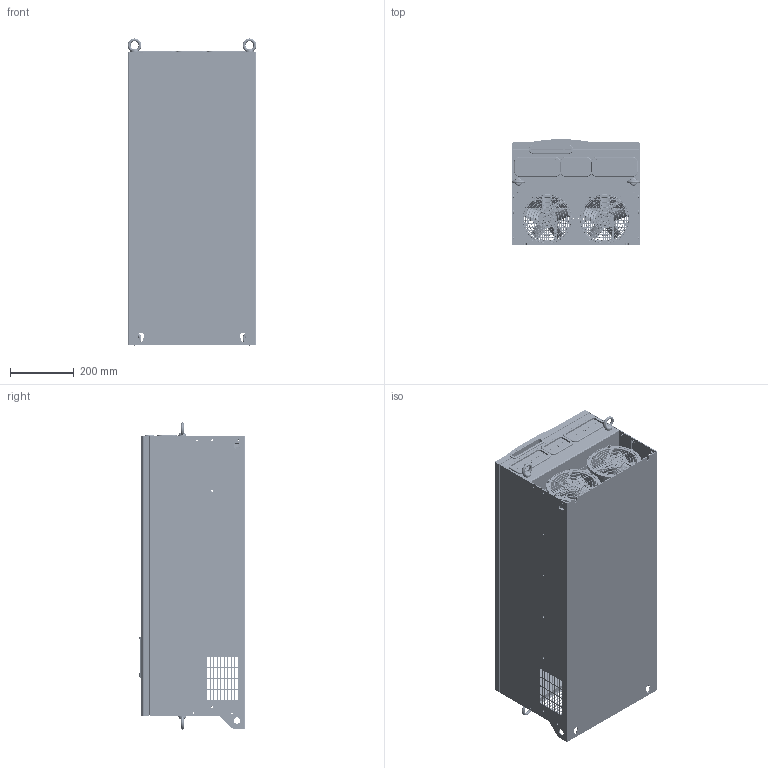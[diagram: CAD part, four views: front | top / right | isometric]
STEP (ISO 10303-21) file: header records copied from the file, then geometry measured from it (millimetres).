
FILE_DESCRIPTION((''),'2;1');
FILE_NAME('T9_ASM','2024-03-28T13:43:05',('dyliuk'),(''),'CREO PARAMETRIC BY PTC INC, 2020044','CREO PARAMETRIC BY PTC INC, 2020044','');
FILE_SCHEMA(('CONFIG_CONTROL_DESIGN','SHAPE_APPEARANCE_LAYERS_GROUPS'));
Products named in the file (103): 8057V1601_1_1; S-M6-1_3_1_1; 5057V1602_ASM_1_ASM_1_ASM; 8051V1601_1_1; S-M5-2_3_1_1; BSO-M3-18_1_1; 5050V1604_ASM_1_ASM_1_ASM; 8073V1601_1_1; S-M8-1_3_1_1; 5073V1601_ASM_1_ASM_1_ASM; 8040V1613_1_1; 5040V1623_ASM_1_ASM_1_ASM; 8040V1609_1_1; 5040V1619_ASM_1_ASM_1_ASM; 8040V1610_1_1; 5040V1620_ASM_1_ASM_1_ASM; 8040V1611_1_1; 5040V1621_ASM_1_ASM_1_ASM; 8050V1606_1_1; 5050V1606_ASM_1_ASM_1_ASM; 8040V1617_1_1; S-M5-2_1_2; 5040V1625_ASM_1_ASM_1_ASM; 8040V1618_1_1; 8130V1606_1_1; 8130V1607_1_1; M10_1_1; 8040V1621_1_1; 5057V1601_ASM_1_ASM_1_ASM; HOOP_1_1; 8050V1605_1_1; 5050V1605_ASM_1_ASM_1_ASM; 8423V1608_1_1; 8392V1601_1_1; 8392V1602_1_1; 8392V1603_1_1; 8392V1604_1_1; 8087V1601_1_1; S-M4-1_3_1_1; 30001-00020_3_1_1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
Assembly tree (188 placements, depth 6):
  T9_ASM
    2971V1641_ASM_3_ASM_1_ASM
      5057V1601_ASM_1_ASM_1_ASM
        5057V1602_ASM_1_ASM_1_ASM
          8057V1601_1_1
          S-M6-1_3_1_1  x12
        5050V1604_ASM_1_ASM_1_ASM
          8051V1601_1_1
          S-M5-2_3_1_1  x12
          BSO-M3-18_1_1  x2
        5073V1601_ASM_1_ASM_1_ASM  x2
          8073V1601_1_1
          S-M8-1_3_1_1
        5040V1623_ASM_1_ASM_1_ASM
          8040V1613_1_1
          S-M5-2_3_1_1  x2
        5040V1619_ASM_1_ASM_1_ASM
          8040V1609_1_1
          S-M5-2_3_1_1  x3
        5040V1620_ASM_1_ASM_1_ASM  x4
          8040V1610_1_1
          S-M5-2_3_1_1
        5040V1621_ASM_1_ASM_1_ASM  x8
          8040V1611_1_1
          S-M5-2_3_1_1
        5050V1606_ASM_1_ASM_1_ASM
          8050V1606_1_1
          S-M5-2_3_1_1  x2
        5040V1625_ASM_1_ASM_1_ASM
          8040V1617_1_1
          S-M5-2_1_2  x2
        8040V1618_1_1
        8130V1606_1_1
        8130V1607_1_1
        M10_1_1  x4
        8040V1621_1_1  x5
      HOOP_1_1  x4
      5050V1605_ASM_1_ASM_1_ASM
        8050V1605_1_1
        S-M5-2_3_1_1  x4
      8423V1608_1_1
      8392V1601_1_1  x2
      8392V1602_1_1
      8392V1603_1_1
      8392V1604_1_1  x2
      5087V1601_ASM_1_ASM_1_ASM
        8087V1601_1_1
        S-M4-1_3_1_1  x8
        S-M5-2_3_1_1  x4
        30001-00020_3_1_1  x2
        FAN-COVER-175-150_1_ASM_1_ASM  x2
          FAN-COVER-175-150_1_1_1
          FAN-COVER-175-150_1_2_1
          FAN-COVER-175-150_1_3_1
          FAN-COVER-175-150_1_4_1
          FAN-COVER-175-150_1_5_1
          FAN-COVER-175-150_1_6_1
          FAN-COVER-175-150_1_7_1
      NVF2G-DOOR-PLATE_ASM_ASM_1_ASM__ASM
        5310V1601_ASM_1_ASM_1_ASM
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Bounding box: 403 x 332.08 x 962 mm (x, y, z)
Volume: 11202280.5 mm3; surface area: 9061557.5 mm2
Topology: 184 solids, 231 shells, 18500 faces, 51867 edges, 34359 vertices
Faces by surface type: plane 14539, cylinder 2774, cone 536, torus 358, extrusion 164, bspline 117, sphere 8, revolution 4
Entity records: 325757 total; most frequent: CARTESIAN_POINT 62754, ORIENTED_EDGE 44105, DIRECTION 41592, EDGE_CURVE 22190, VECTOR 17018, LINE 16854, VERTEX_POINT 14611, AXIS2_PLACEMENT_3D 12285
